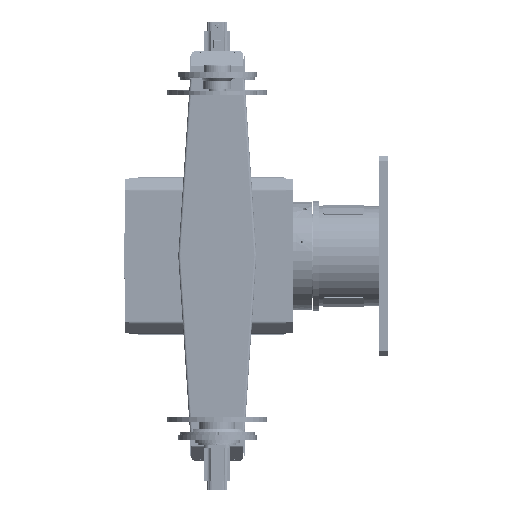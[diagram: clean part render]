
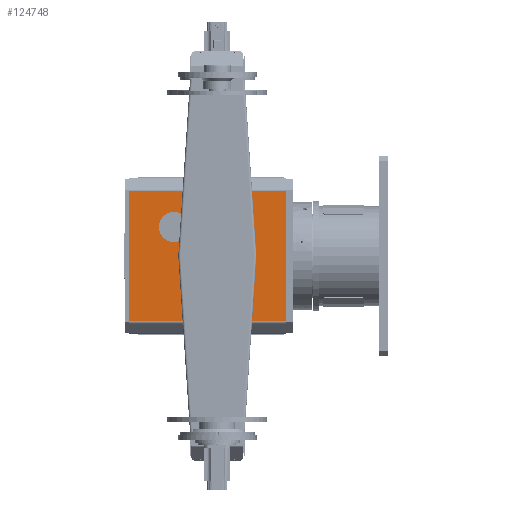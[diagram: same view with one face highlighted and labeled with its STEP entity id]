
A CAD part, left-side view. The second image highlights one B-rep face of the part: STEP entity #124748.
In plain terms, the highlighted planar face has unit normal (-1, 0, 0) as drawn and (0, -1, 0) by its records, which use the part's own axes.
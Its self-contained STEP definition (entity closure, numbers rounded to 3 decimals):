
#56652 = CARTESIAN_POINT ( 'NONE',  ( -203.072, -305., 239.528 ) ) ;
#56653 = DIRECTION ( 'NONE',  ( -1., 0., 0. ) ) ;
#56654 = DIRECTION ( 'NONE',  ( 0., -1., 0. ) ) ;
#56655 = CARTESIAN_POINT ( 'NONE',  ( -200.572, -305., 239.528 ) ) ;
#56656 = AXIS2_PLACEMENT_3D ( 'NONE', #56655, #56654, #56653 ) ;
#56657 = CIRCLE ( 'NONE', #56656, 2.5 ) ;
#56658 = CARTESIAN_POINT ( 'NONE',  ( -198.072, -305., 239.528 ) ) ;
#56663 = DIRECTION ( 'NONE',  ( -1., 0., 0. ) ) ;
#56664 = DIRECTION ( 'NONE',  ( 0., -1., 0. ) ) ;
#56665 = CARTESIAN_POINT ( 'NONE',  ( -88.324, -305., 164.526 ) ) ;
#56666 = AXIS2_PLACEMENT_3D ( 'NONE', #56665, #56664, #56663 ) ;
#56667 = CIRCLE ( 'NONE', #56666, 2.5 ) ;
#56668 = CARTESIAN_POINT ( 'NONE',  ( -90.824, -305., 164.526 ) ) ;
#56669 = CARTESIAN_POINT ( 'NONE',  ( -85.824, -305., 164.526 ) ) ;
#56681 = CARTESIAN_POINT ( 'NONE',  ( -323.858, -305., 760.709 ) ) ;
#56682 = DIRECTION ( 'NONE',  ( 0., 0., -1. ) ) ;
#56683 = VECTOR ( 'NONE', #56682, 1000. ) ;
#56684 = CARTESIAN_POINT ( 'NONE',  ( -323.858, -305., 760.709 ) ) ;
#56685 = LINE ( 'NONE', #56684, #56683 ) ;
#56719 = CARTESIAN_POINT ( 'NONE',  ( 323.858, -305., 760.709 ) ) ;
#56720 = CARTESIAN_POINT ( 'NONE',  ( 323.858, -305., -24.291 ) ) ;
#56721 = DIRECTION ( 'NONE',  ( 1., 0., 0. ) ) ;
#56722 = VECTOR ( 'NONE', #56721, 1000. ) ;
#56723 = CARTESIAN_POINT ( 'NONE',  ( 328., -305., -24.291 ) ) ;
#56724 = LINE ( 'NONE', #56723, #56722 ) ;
#56768 = DIRECTION ( 'NONE',  ( -1., 0., 0. ) ) ;
#56769 = DIRECTION ( 'NONE',  ( 0., -1., 0. ) ) ;
#56770 = CARTESIAN_POINT ( 'NONE',  ( -200.572, -305., 239.528 ) ) ;
#56771 = AXIS2_PLACEMENT_3D ( 'NONE', #56770, #56769, #56768 ) ;
#56772 = CIRCLE ( 'NONE', #56771, 2.5 ) ;
#56775 = DIRECTION ( 'NONE',  ( -1., 0., 0. ) ) ;
#56776 = DIRECTION ( 'NONE',  ( 0., -1., 0. ) ) ;
#56777 = CARTESIAN_POINT ( 'NONE',  ( -181.949, -305., 145.903 ) ) ;
#56778 = AXIS2_PLACEMENT_3D ( 'NONE', #56777, #56776, #56775 ) ;
#56779 = CIRCLE ( 'NONE', #56778, 2.5 ) ;
#56780 = CARTESIAN_POINT ( 'NONE',  ( -179.449, -305., 145.903 ) ) ;
#56781 = CARTESIAN_POINT ( 'NONE',  ( -184.449, -305., 145.903 ) ) ;
#56782 = DIRECTION ( 'NONE',  ( -1., 0., 0. ) ) ;
#56783 = DIRECTION ( 'NONE',  ( 0., -1., 0. ) ) ;
#56784 = CARTESIAN_POINT ( 'NONE',  ( -181.949, -305., 145.903 ) ) ;
#56785 = AXIS2_PLACEMENT_3D ( 'NONE', #56784, #56783, #56782 ) ;
#56786 = CIRCLE ( 'NONE', #56785, 2.5 ) ;
#56797 = FACE_OUTER_BOUND ( 'NONE', #124800, .T. ) ;
#56798 = FACE_BOUND ( 'NONE', #124793, .T. ) ;
#56799 = FACE_BOUND ( 'NONE', #124735, .T. ) ;
#56800 = FACE_BOUND ( 'NONE', #124732, .T. ) ;
#56801 = FACE_BOUND ( 'NONE', #124729, .T. ) ;
#56802 = FACE_BOUND ( 'NONE', #124749, .T. ) ;
#56803 = DIRECTION ( 'NONE',  ( -1., 0., 0. ) ) ;
#56804 = DIRECTION ( 'NONE',  ( 0., -1., 0. ) ) ;
#56805 = CARTESIAN_POINT ( 'NONE',  ( -88.324, -305., 164.526 ) ) ;
#56806 = AXIS2_PLACEMENT_3D ( 'NONE', #56805, #56804, #56803 ) ;
#56807 = CIRCLE ( 'NONE', #56806, 2.5 ) ;
#56834 = CARTESIAN_POINT ( 'NONE',  ( -323.858, -305., -24.291 ) ) ;
#56835 = DIRECTION ( 'NONE',  ( -1., 0., 0. ) ) ;
#56836 = DIRECTION ( 'NONE',  ( 0., -1., 0. ) ) ;
#56837 = CARTESIAN_POINT ( 'NONE',  ( 328., -305., 760.709 ) ) ;
#56838 = AXIS2_PLACEMENT_3D ( 'NONE', #56837, #56836, #56835 ) ;
#56840 = PLANE ( 'NONE',  #56838 ) ;
#56920 = DIRECTION ( 'NONE',  ( -1., 0., 0. ) ) ;
#56921 = VECTOR ( 'NONE', #56920, 1000. ) ;
#56922 = CARTESIAN_POINT ( 'NONE',  ( 328., -305., 760.709 ) ) ;
#56924 = LINE ( 'NONE', #56922, #56921 ) ;
#56925 = DIRECTION ( 'NONE',  ( 0., 0., 1. ) ) ;
#56926 = VECTOR ( 'NONE', #56925, 1000. ) ;
#56927 = CARTESIAN_POINT ( 'NONE',  ( 323.858, -305., -24.291 ) ) ;
#56928 = LINE ( 'NONE', #56927, #56926 ) ;
#56938 = CARTESIAN_POINT ( 'NONE',  ( -144.448, -305., 202.027 ) ) ;
#56939 = CARTESIAN_POINT ( 'NONE',  ( -84.448, -305., 202.027 ) ) ;
#56940 = CARTESIAN_POINT ( 'NONE',  ( -204.448, -305., 202.027 ) ) ;
#56941 = DIRECTION ( 'NONE',  ( -1., 0., 0. ) ) ;
#56943 = DIRECTION ( 'NONE',  ( 0., -1., 0. ) ) ;
#56944 = CARTESIAN_POINT ( 'NONE',  ( -144.448, -305., 202.027 ) ) ;
#56945 = AXIS2_PLACEMENT_3D ( 'NONE', #56944, #56943, #56941 ) ;
#56946 = CIRCLE ( 'NONE', #56945, 60. ) ;
#56983 = DIRECTION ( 'NONE',  ( -1., 0., 0. ) ) ;
#56984 = DIRECTION ( 'NONE',  ( 0., -1., 0. ) ) ;
#56985 = CARTESIAN_POINT ( 'NONE',  ( 0., -305., 418.209 ) ) ;
#56986 = AXIS2_PLACEMENT_3D ( 'NONE', #56985, #56984, #56983 ) ;
#56987 = CIRCLE ( 'NONE', #56986, 185. ) ;
#56988 = CARTESIAN_POINT ( 'NONE',  ( 185., -305., 418.209 ) ) ;
#56989 = CARTESIAN_POINT ( 'NONE',  ( -185., -305., 418.209 ) ) ;
#56991 = DIRECTION ( 'NONE',  ( -1., 0., 0. ) ) ;
#56992 = DIRECTION ( 'NONE',  ( 0., -1., 0. ) ) ;
#56993 = CARTESIAN_POINT ( 'NONE',  ( 0., -305., 418.209 ) ) ;
#56994 = AXIS2_PLACEMENT_3D ( 'NONE', #56993, #56992, #56991 ) ;
#56995 = CIRCLE ( 'NONE', #56994, 185. ) ;
#56996 = DIRECTION ( 'NONE',  ( -1., 0., 0. ) ) ;
#56997 = DIRECTION ( 'NONE',  ( 0., -1., 0. ) ) ;
#56998 = AXIS2_PLACEMENT_3D ( 'NONE', #56938, #56997, #56996 ) ;
#56999 = CIRCLE ( 'NONE', #56998, 60. ) ;
#124680 = VERTEX_POINT ( 'NONE', #56658 ) ;
#124682 = EDGE_CURVE ( 'NONE', #124680, #124683, #56657, .T. ) ;
#124683 = VERTEX_POINT ( 'NONE', #56652 ) ;
#124689 = EDGE_CURVE ( 'NONE', #124690, #124750, #56685, .T. ) ;
#124690 = VERTEX_POINT ( 'NONE', #56681 ) ;
#124697 = VERTEX_POINT ( 'NONE', #56669 ) ;
#124699 = EDGE_CURVE ( 'NONE', #124697, #124701, #56667, .T. ) ;
#124701 = VERTEX_POINT ( 'NONE', #56668 ) ;
#124720 = EDGE_CURVE ( 'NONE', #124750, #124721, #56724, .T. ) ;
#124721 = VERTEX_POINT ( 'NONE', #56720 ) ;
#124722 = VERTEX_POINT ( 'NONE', #56719 ) ;
#124723 = ORIENTED_EDGE ( 'NONE', *, *, #124724, .F. ) ;
#124724 = EDGE_CURVE ( 'NONE', #124725, #124726, #56786, .T. ) ;
#124725 = VERTEX_POINT ( 'NONE', #56781 ) ;
#124726 = VERTEX_POINT ( 'NONE', #56780 ) ;
#124727 = ORIENTED_EDGE ( 'NONE', *, *, #124728, .F. ) ;
#124728 = EDGE_CURVE ( 'NONE', #124726, #124725, #56779, .T. ) ;
#124729 = EDGE_LOOP ( 'NONE', ( #124730, #124731 ) ) ;
#124730 = ORIENTED_EDGE ( 'NONE', *, *, #124747, .F. ) ;
#124731 = ORIENTED_EDGE ( 'NONE', *, *, #124699, .F. ) ;
#124732 = EDGE_LOOP ( 'NONE', ( #124733, #124734 ) ) ;
#124733 = ORIENTED_EDGE ( 'NONE', *, *, #124739, .F. ) ;
#124734 = ORIENTED_EDGE ( 'NONE', *, *, #124682, .F. ) ;
#124735 = EDGE_LOOP ( 'NONE', ( #124736, #124791 ) ) ;
#124736 = ORIENTED_EDGE ( 'NONE', *, *, #124788, .F. ) ;
#124739 = EDGE_CURVE ( 'NONE', #124683, #124680, #56772, .T. ) ;
#124747 = EDGE_CURVE ( 'NONE', #124701, #124697, #56807, .T. ) ;
#124748 = ADVANCED_FACE ( 'NONE', ( #56802, #56801, #56800, #56799, #56798, #56797 ), #56840, .T. ) ;
#124749 = EDGE_LOOP ( 'NONE', ( #124723, #124727 ) ) ;
#124750 = VERTEX_POINT ( 'NONE', #56834 ) ;
#124774 = ORIENTED_EDGE ( 'NONE', *, *, #124775, .T. ) ;
#124775 = EDGE_CURVE ( 'NONE', #124721, #124722, #56928, .T. ) ;
#124776 = ORIENTED_EDGE ( 'NONE', *, *, #124777, .T. ) ;
#124777 = EDGE_CURVE ( 'NONE', #124722, #124690, #56924, .T. ) ;
#124778 = ORIENTED_EDGE ( 'NONE', *, *, #124689, .T. ) ;
#124788 = EDGE_CURVE ( 'NONE', #124789, #124790, #56946, .T. ) ;
#124789 = VERTEX_POINT ( 'NONE', #56940 ) ;
#124790 = VERTEX_POINT ( 'NONE', #56939 ) ;
#124791 = ORIENTED_EDGE ( 'NONE', *, *, #124792, .F. ) ;
#124792 = EDGE_CURVE ( 'NONE', #124790, #124789, #56999, .T. ) ;
#124793 = EDGE_LOOP ( 'NONE', ( #124794, #124798 ) ) ;
#124794 = ORIENTED_EDGE ( 'NONE', *, *, #124795, .F. ) ;
#124795 = EDGE_CURVE ( 'NONE', #124796, #124797, #56995, .T. ) ;
#124796 = VERTEX_POINT ( 'NONE', #56989 ) ;
#124797 = VERTEX_POINT ( 'NONE', #56988 ) ;
#124798 = ORIENTED_EDGE ( 'NONE', *, *, #124799, .F. ) ;
#124799 = EDGE_CURVE ( 'NONE', #124797, #124796, #56987, .T. ) ;
#124800 = EDGE_LOOP ( 'NONE', ( #124801, #124774, #124776, #124778 ) ) ;
#124801 = ORIENTED_EDGE ( 'NONE', *, *, #124720, .T. ) ;
